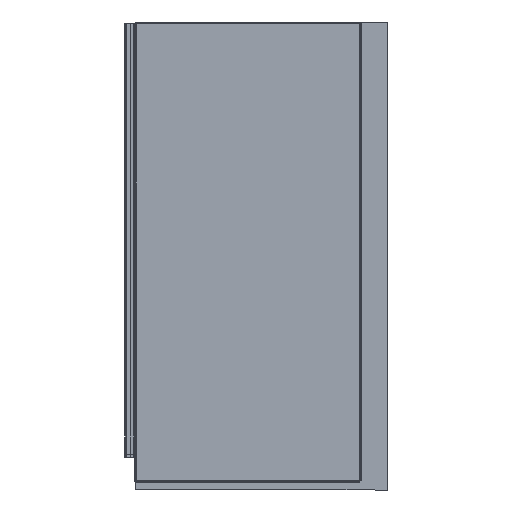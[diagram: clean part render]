
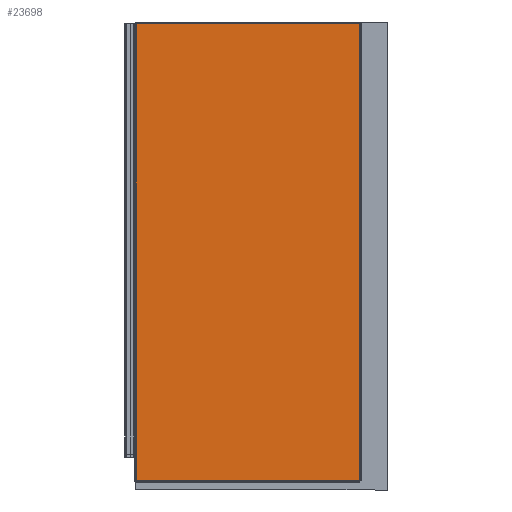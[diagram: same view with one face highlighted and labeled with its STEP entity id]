
A CAD part, left-side view. The second image highlights one B-rep face of the part: STEP entity #23698.
In plain terms, the highlighted planar face has unit normal (-1, 0, 0) as drawn and (0, 0, -1) by its records, which use the part's own axes.
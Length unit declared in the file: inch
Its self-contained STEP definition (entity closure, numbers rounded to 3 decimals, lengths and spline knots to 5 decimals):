
#23566=CARTESIAN_POINT('Line Origine',(129.03555,-5.76955,0.)) ;
#23570=CARTESIAN_POINT('Vertex',(-11.68365,-5.76955,0.)) ;
#23572=CARTESIAN_POINT('Vertex',(11.76955,-5.76955,0.)) ;
#23668=CARTESIAN_POINT('Axis2P3D Location',(0.,0.,0.)) ;
#23673=CARTESIAN_POINT('Line Origine',(0.04295,5.68365,0.)) ;
#23677=CARTESIAN_POINT('Vertex',(11.76955,5.68365,0.)) ;
#23679=CARTESIAN_POINT('Vertex',(-11.68365,5.68365,0.)) ;
#23682=CARTESIAN_POINT('Line Origine',(11.76955,-0.04295,0.)) ;
#23687=CARTESIAN_POINT('Line Origine',(-11.68365,-0.04295,0.)) ;
#23567=DIRECTION('Vector Direction',(-1.,0.,0.)) ;
#23669=DIRECTION('Axis2P3D Direction',(0.,0.,-1.)) ;
#23670=DIRECTION('Axis2P3D XDirection',(1.,0.,0.)) ;
#23674=DIRECTION('Vector Direction',(-1.,0.,0.)) ;
#23683=DIRECTION('Vector Direction',(0.,1.,0.)) ;
#23688=DIRECTION('Vector Direction',(0.,-1.,0.)) ;
#23671=AXIS2_PLACEMENT_3D('Plane Axis2P3D',#23668,#23669,#23670) ;
#23693=ORIENTED_EDGE('',*,*,#23681,.F.) ;
#23694=ORIENTED_EDGE('',*,*,#23686,.F.) ;
#23695=ORIENTED_EDGE('',*,*,#23574,.F.) ;
#23696=ORIENTED_EDGE('',*,*,#23691,.F.) ;
#23568=VECTOR('Line Direction',#23567,0.03937) ;
#23675=VECTOR('Line Direction',#23674,0.03937) ;
#23684=VECTOR('Line Direction',#23683,0.03937) ;
#23689=VECTOR('Line Direction',#23688,0.03937) ;
#23698=ADVANCED_FACE('<36379>-<Cut-Extrude3>',(#23697),#23672,.T.) ;
#23574=EDGE_CURVE('',#23571,#23573,#23569,.F.) ;
#23681=EDGE_CURVE('',#23678,#23680,#23676,.T.) ;
#23686=EDGE_CURVE('',#23573,#23678,#23685,.T.) ;
#23691=EDGE_CURVE('',#23680,#23571,#23690,.T.) ;
#23692=EDGE_LOOP('',(#23693,#23694,#23695,#23696)) ;
#23697=FACE_OUTER_BOUND('',#23692,.T.) ;
#23569=LINE('Line',#23566,#23568) ;
#23676=LINE('Line',#23673,#23675) ;
#23685=LINE('Line',#23682,#23684) ;
#23690=LINE('Line',#23687,#23689) ;
#23672=PLANE('',#23671) ;
#23571=VERTEX_POINT('',#23570) ;
#23573=VERTEX_POINT('',#23572) ;
#23678=VERTEX_POINT('',#23677) ;
#23680=VERTEX_POINT('',#23679) ;
